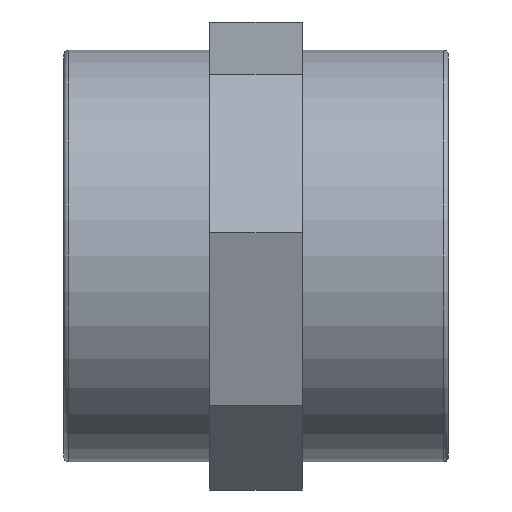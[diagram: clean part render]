
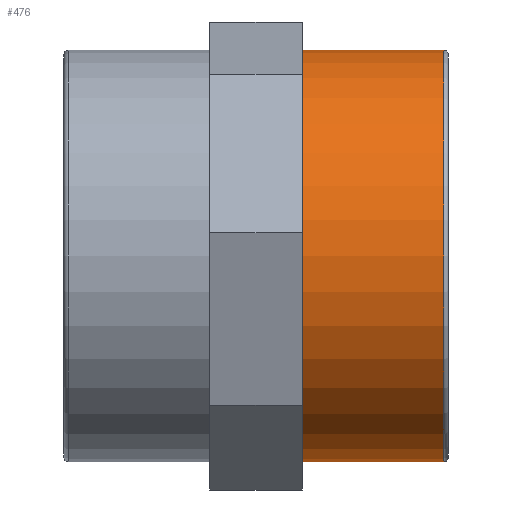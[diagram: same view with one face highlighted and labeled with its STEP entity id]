
A CAD part, front view. The second image highlights one B-rep face of the part: STEP entity #476.
In plain terms, the highlighted cylindrical face has radius 44.5 mm (diameter 89 mm), a full revolution.
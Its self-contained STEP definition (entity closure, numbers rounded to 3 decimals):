
#46=CYLINDRICAL_SURFACE('',#514,44.5);
#55=FACE_BOUND('',#135,.T.);
#72=CIRCLE('',#513,44.5);
#73=CIRCLE('',#515,44.5);
#99=FACE_OUTER_BOUND('',#134,.T.);
#134=EDGE_LOOP('',(#378));
#135=EDGE_LOOP('',(#379));
#238=VERTEX_POINT('',#716);
#239=VERTEX_POINT('',#719);
#292=EDGE_CURVE('',#238,#238,#72,.T.);
#293=EDGE_CURVE('',#239,#239,#73,.T.);
#378=ORIENTED_EDGE('',*,*,#293,.F.);
#379=ORIENTED_EDGE('',*,*,#292,.T.);
#476=ADVANCED_FACE('',(#99,#55),#46,.T.);
#513=AXIS2_PLACEMENT_3D('',#717,#595,#596);
#514=AXIS2_PLACEMENT_3D('',#718,#597,#598);
#515=AXIS2_PLACEMENT_3D('',#720,#599,#600);
#595=DIRECTION('center_axis',(1.,0.,0.));
#596=DIRECTION('ref_axis',(0.,-1.,0.));
#597=DIRECTION('center_axis',(-1.,0.,0.));
#598=DIRECTION('ref_axis',(0.,-1.,0.));
#599=DIRECTION('center_axis',(1.,0.,0.));
#600=DIRECTION('ref_axis',(0.,1.,0.));
#716=CARTESIAN_POINT('',(51.6,44.5,0.));
#717=CARTESIAN_POINT('Origin',(51.6,0.,0.));
#718=CARTESIAN_POINT('Origin',(41.6,0.,0.));
#719=CARTESIAN_POINT('',(82.2,-44.5,0.));
#720=CARTESIAN_POINT('Origin',(82.2,0.,0.));
